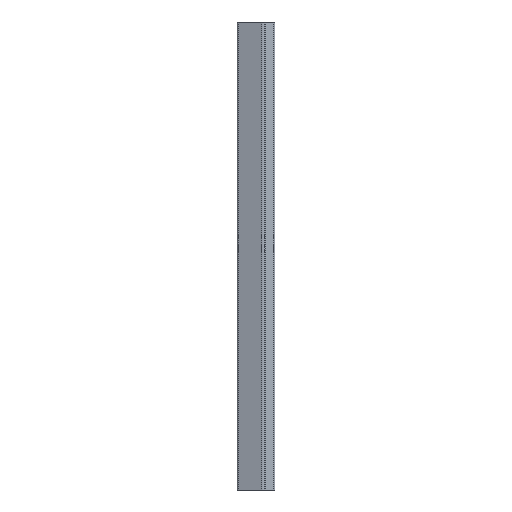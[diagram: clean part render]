
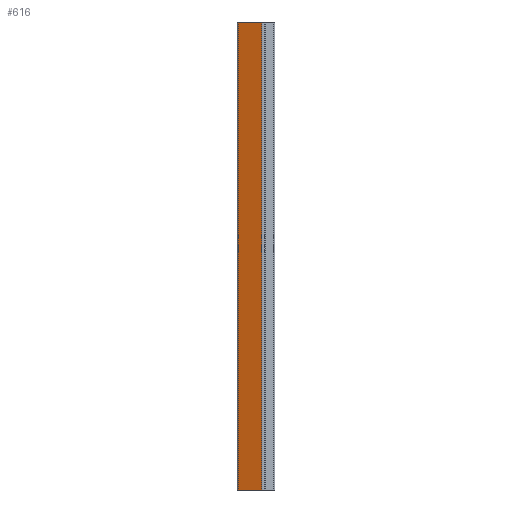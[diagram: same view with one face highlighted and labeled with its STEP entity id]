
A CAD part, left-side view. The second image highlights one B-rep face of the part: STEP entity #616.
In plain terms, the highlighted planar face has unit normal (-0.949, 0.316, 0).
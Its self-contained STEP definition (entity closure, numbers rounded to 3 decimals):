
#27=PLANE('',#698);
#58=FACE_OUTER_BOUND('',#90,.T.);
#90=EDGE_LOOP('',(#501,#502,#503,#504));
#146=LINE('',#1057,#204);
#147=LINE('',#1061,#205);
#148=LINE('',#1063,#206);
#149=LINE('',#1064,#207);
#204=VECTOR('',#870,10.);
#205=VECTOR('',#875,10.);
#206=VECTOR('',#876,10.);
#207=VECTOR('',#877,10.);
#297=VERTEX_POINT('',#1054);
#298=VERTEX_POINT('',#1056);
#299=VERTEX_POINT('',#1060);
#300=VERTEX_POINT('',#1062);
#383=EDGE_CURVE('',#298,#297,#146,.T.);
#385=EDGE_CURVE('',#297,#299,#147,.T.);
#386=EDGE_CURVE('',#300,#299,#148,.T.);
#387=EDGE_CURVE('',#298,#300,#149,.T.);
#501=ORIENTED_EDGE('',*,*,#385,.T.);
#502=ORIENTED_EDGE('',*,*,#386,.F.);
#503=ORIENTED_EDGE('',*,*,#387,.F.);
#504=ORIENTED_EDGE('',*,*,#383,.T.);
#616=ADVANCED_FACE('',(#58),#27,.T.);
#698=AXIS2_PLACEMENT_3D('',#1059,#873,#874);
#870=DIRECTION('',(0.,0.,1.));
#873=DIRECTION('center_axis',(-0.949,0.316,0.));
#874=DIRECTION('ref_axis',(0.,0.,1.));
#875=DIRECTION('',(0.316,0.949,0.));
#876=DIRECTION('',(0.,0.,1.));
#877=DIRECTION('',(0.316,0.949,0.));
#1054=CARTESIAN_POINT('',(5.992,8.755,120.));
#1056=CARTESIAN_POINT('',(5.992,8.755,0.));
#1057=CARTESIAN_POINT('',(5.992,8.755,0.));
#1059=CARTESIAN_POINT('Origin',(5.992,8.755,0.));
#1060=CARTESIAN_POINT('',(7.971,14.703,120.));
#1061=CARTESIAN_POINT('',(5.992,8.755,120.));
#1062=CARTESIAN_POINT('',(7.971,14.703,0.));
#1063=CARTESIAN_POINT('',(7.971,14.703,0.));
#1064=CARTESIAN_POINT('',(5.992,8.755,0.));
